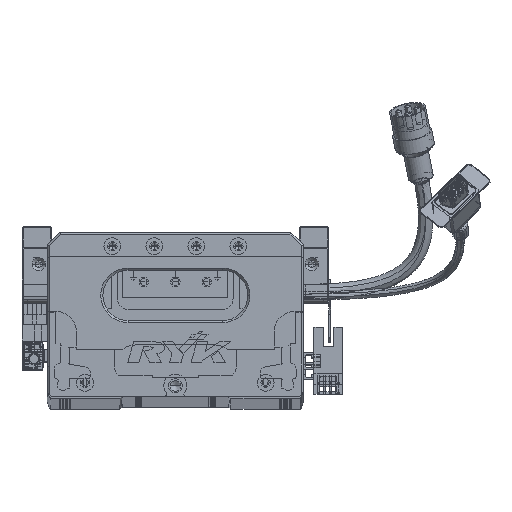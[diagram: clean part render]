
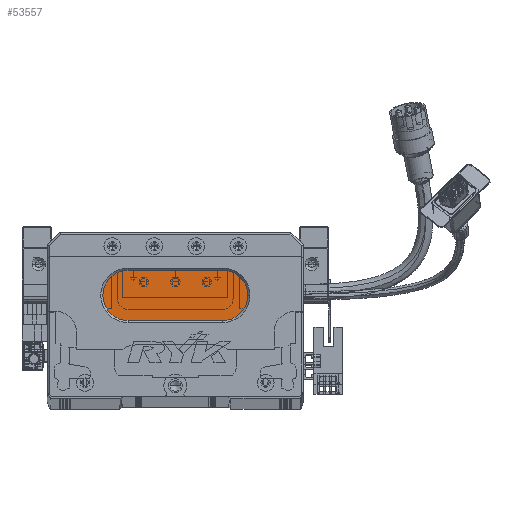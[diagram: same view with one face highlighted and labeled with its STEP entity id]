
A CAD part, top view. The second image highlights one B-rep face of the part: STEP entity #53557.
In plain terms, the highlighted planar face has unit normal (0, 0, 1) as drawn and (0, 0, -1) by its records, which use the part's own axes.
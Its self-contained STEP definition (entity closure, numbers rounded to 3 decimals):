
#803 = EDGE_CURVE ( 'NONE', #27461, #29440, #14907, .T. ) ;
#1906 = DIRECTION ( 'NONE',  ( 1., 0., 0. ) ) ;
#3090 = CARTESIAN_POINT ( 'NONE',  ( 38.5, 48., 13. ) ) ;
#5769 = LINE ( 'NONE', #113287, #36034 ) ;
#6201 = AXIS2_PLACEMENT_3D ( 'NONE', #3090, #75615, #13310 ) ;
#13310 = DIRECTION ( 'NONE',  ( -1., 0., 0. ) ) ;
#14432 = LINE ( 'NONE', #114948, #121241 ) ;
#14907 = CIRCLE ( 'NONE', #69798, 12. ) ;
#16430 = DIRECTION ( 'NONE',  ( -1., 0., 0. ) ) ;
#20491 = PLANE ( 'NONE',  #100270 ) ;
#22152 = VERTEX_POINT ( 'NONE', #70051 ) ;
#23323 = FACE_OUTER_BOUND ( 'NONE', #114630, .T. ) ;
#24659 = CIRCLE ( 'NONE', #117687, 12. ) ;
#27461 = VERTEX_POINT ( 'NONE', #48785 ) ;
#29440 = VERTEX_POINT ( 'NONE', #90325 ) ;
#32374 = ORIENTED_EDGE ( 'NONE', *, *, #109351, .T. ) ;
#36034 = VECTOR ( 'NONE', #1906, 1000. ) ;
#37500 = ORIENTED_EDGE ( 'NONE', *, *, #65533, .T. ) ;
#40970 = DIRECTION ( 'NONE',  ( -1., 0., 0. ) ) ;
#48785 = CARTESIAN_POINT ( 'NONE',  ( 83.5, 60., 13. ) ) ;
#53557 = ADVANCED_FACE ( 'NONE', ( #23323 ), #20491, .T. ) ;
#64998 = DIRECTION ( 'NONE',  ( -1., 0., 0. ) ) ;
#65533 = EDGE_CURVE ( 'NONE', #29440, #75299, #14432, .T. ) ;
#68279 = ORIENTED_EDGE ( 'NONE', *, *, #803, .T. ) ;
#68902 = CIRCLE ( 'NONE', #6201, 12. ) ;
#69798 = AXIS2_PLACEMENT_3D ( 'NONE', #87233, #117558, #16430 ) ;
#70051 = CARTESIAN_POINT ( 'NONE',  ( 26.5, 48., 13. ) ) ;
#75299 = VERTEX_POINT ( 'NONE', #119192 ) ;
#75615 = DIRECTION ( 'NONE',  ( 0., 0., -1. ) ) ;
#82338 = CARTESIAN_POINT ( 'NONE',  ( 83.5, 48., 13. ) ) ;
#82805 = CARTESIAN_POINT ( 'NONE',  ( 38.5, 60., 13. ) ) ;
#83308 = ORIENTED_EDGE ( 'NONE', *, *, #91375, .T. ) ;
#87233 = CARTESIAN_POINT ( 'NONE',  ( 83.5, 48., 13. ) ) ;
#90325 = CARTESIAN_POINT ( 'NONE',  ( 83.5, 36., 13. ) ) ;
#91298 = VERTEX_POINT ( 'NONE', #82805 ) ;
#91375 = EDGE_CURVE ( 'NONE', #75299, #22152, #68902, .T. ) ;
#100270 = AXIS2_PLACEMENT_3D ( 'NONE', #82338, #101985, #40970 ) ;
#101985 = DIRECTION ( 'NONE',  ( 0., 0., -1. ) ) ;
#109351 = EDGE_CURVE ( 'NONE', #91298, #27461, #5769, .T. ) ;
#113287 = CARTESIAN_POINT ( 'NONE',  ( 83.5, 60., 13. ) ) ;
#114630 = EDGE_LOOP ( 'NONE', ( #68279, #37500, #83308, #121086, #32374 ) ) ;
#114948 = CARTESIAN_POINT ( 'NONE',  ( 83.5, 36., 13. ) ) ;
#117558 = DIRECTION ( 'NONE',  ( 0., 0., -1. ) ) ;
#117687 = AXIS2_PLACEMENT_3D ( 'NONE', #126487, #125132, #125566 ) ;
#119192 = CARTESIAN_POINT ( 'NONE',  ( 38.5, 36., 13. ) ) ;
#121086 = ORIENTED_EDGE ( 'NONE', *, *, #129315, .T. ) ;
#121241 = VECTOR ( 'NONE', #64998, 1000. ) ;
#125132 = DIRECTION ( 'NONE',  ( 0., 0., -1. ) ) ;
#125566 = DIRECTION ( 'NONE',  ( -1., 0., 0. ) ) ;
#126487 = CARTESIAN_POINT ( 'NONE',  ( 38.5, 48., 13. ) ) ;
#129315 = EDGE_CURVE ( 'NONE', #22152, #91298, #24659, .T. ) ;
